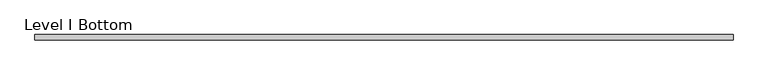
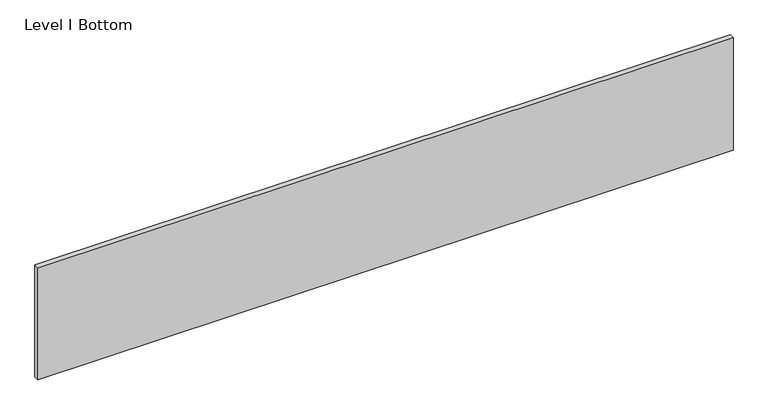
"""IFC4 building model written with IfcOpenShell, lengths in millimetres: proxy geometry, Panel-Fascia-Teknion-Altos-Landscape : Level I Bottom."""

from ifc_helpers import new_model, si_unit, frame, origin, place, context, project, spatial, polyline, outline, extrude, source, transform, mapped, element, save


def level_i_bottom_886b868d(model_context):
    return source(origin(), model_context, "Body", "SweptSolid", [
        extrude(outline(polyline([(1259.8356344, 9.525), (1259.8356344, -9.525), (-1259.8356344, -9.525), (-1259.8356344, 9.525), (1259.8356344, 9.525)])), frame((0.0, 0.0, 3.175), z_axis=(0.0, 0.0, 1.0), x_axis=(1.0, 0.0, 0.0)), (0.0, 0.0, 1.0), 429.768),
    ])


if __name__ == "__main__":
    model = new_model("IFC4")
    model_context = context("Model", 3, world=origin())
    ifc_project = project(units=[si_unit("LENGTHUNIT", "METRE", prefix="MILLI")], contexts=[model_context])
    site = spatial("IfcSite", under=ifc_project)
    building = spatial("IfcBuilding", under=site)
    placement = place(None, origin())
    level_i_bottom_shape = level_i_bottom_886b868d(model_context)
    element("IfcBuildingElementProxy", 1, Name="Panel-Fascia-Teknion-Altos-Landscape : Level I Bottom", ObjectType="Panel-Fascia-Teknion-Altos-Landscape : Level I Bottom", at=placement, inside=building, context=model_context, shape_type="MappedRepresentation", body=[
        mapped(level_i_bottom_shape, transform((0.0, 0.0, 0.0), x_axis=(1.0, 0.0, 0.0), y_axis=(0.0, 1.0, 0.0), z_axis=(0.0, 0.0, 1.0))),
    ])
    save(model, "model.ifc")
